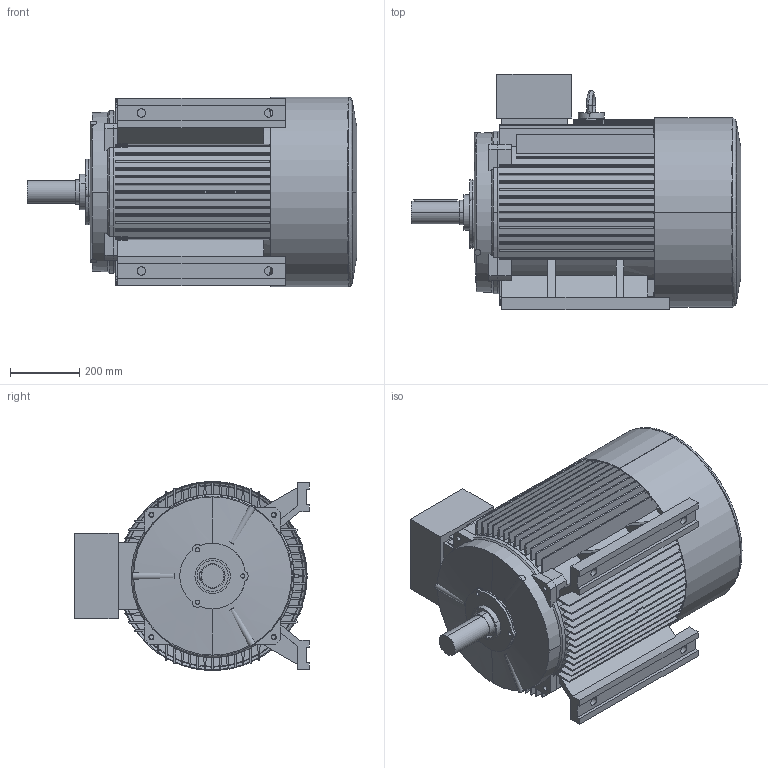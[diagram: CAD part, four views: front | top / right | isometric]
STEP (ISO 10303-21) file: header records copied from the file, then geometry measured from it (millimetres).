
FILE_DESCRIPTION (( 'STEP AP203' ), '1' );
FILE_NAME ('M3-280S-2p-FF-B3.STEP', '2019-07-09T10:38:16', ( '' ), ( '' ), 'SwSTEP 2.0', 'SolidWorks 2012', '' );
FILE_SCHEMA (( 'CONFIG_CONTROL_DESIGN' ));
Length unit declared in the file: millimetre
Products named in the file (8): Y2-280-2ﾀiﾍ_-ｼ+､; M3-280S-2p-FF-B3; Y2-280ｦｾﾂ-ｩﾃ_-ｼ+､; 280ﾁｧ+ﾀ_-ｼ+､; Y2-280-2ﾃｦﾂ-ｩﾃ_-ｼ+､; Y2-250-4.6.8ú¼280-2Ã¦Íß¦ð-Ô©Ã_-¼+¤; Y2-280S.M-2ﾍﾟ_-ｼ+､; Y2-280S+ｷﾎｨB3_-ｼ+､
Assembly tree (7 placements, depth 2):
  M3-280S-2p-FF-B3
    Y2-250-4.6.8ú¼280-2Ã¦Íß¦ð-Ô©Ã_-¼+¤
    Y2-280S.M-2ﾍﾟ_-ｼ+､
    Y2-280S+ｷﾎｨB3_-ｼ+､
    Y2-280ｦｾﾂ-ｩﾃ_-ｼ+､
    280ﾁｧ+ﾀ_-ｼ+､
    Y2-280-2ﾃｦﾂ-ｩﾃ_-ｼ+､
    Y2-280-2ﾀiﾍ_-ｼ+､
Bounding box: 952.53 x 679 x 547 mm (x, y, z)
Volume: 35564034.4 mm3; surface area: 6645088.8 mm2
Topology: 10 solids, 10 shells, 791 faces, 2110 edges, 1398 vertices
Faces by surface type: plane 454, cylinder 285, cone 30, bspline 22
Entity records: 27612 total; most frequent: CARTESIAN_POINT 6388, DIRECTION 4338, ORIENTED_EDGE 4220, EDGE_CURVE 2110, AXIS2_PLACEMENT_3D 1532, VERTEX_POINT 1398, VECTOR 1274, LINE 1274
